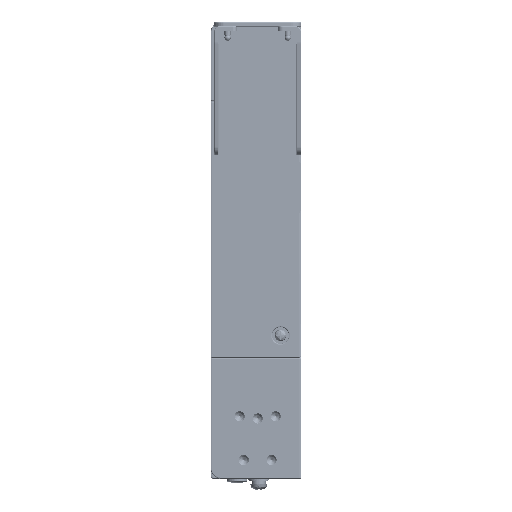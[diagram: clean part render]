
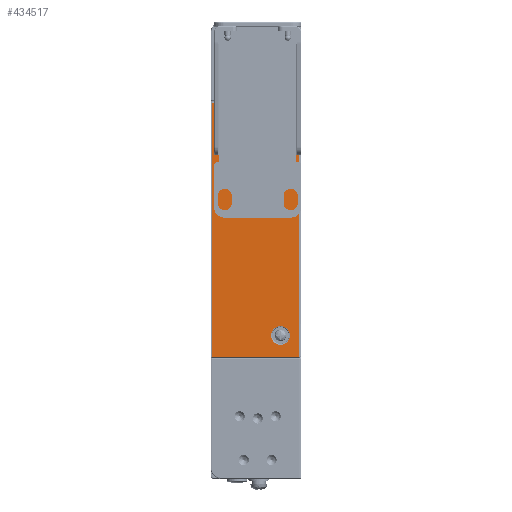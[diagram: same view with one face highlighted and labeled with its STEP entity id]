
A CAD part, left-side view. The second image highlights one B-rep face of the part: STEP entity #434517.
In plain terms, the highlighted planar face has unit normal (-1, 0, 0) as drawn and (0, 0, 1) by its records, which use the part's own axes.
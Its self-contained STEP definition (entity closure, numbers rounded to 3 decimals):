
#423816=DIRECTION('',(0.,-1.,0.));
#423817=VECTOR('',#423816,122.4);
#423818=CARTESIAN_POINT('',(-19.27,61.2,32.25));
#423819=LINE('',#423818,#423817);
#423820=CARTESIAN_POINT('',(13.83,51.,32.25));
#423821=DIRECTION('',(0.,0.,-1.));
#423822=DIRECTION('',(0.,1.,0.));
#423823=AXIS2_PLACEMENT_3D('',#423820,#423821,#423822);
#423825=CARTESIAN_POINT('',(13.83,51.,32.25));
#423826=DIRECTION('',(0.,0.,-1.));
#423827=DIRECTION('',(0.,-1.,0.));
#423828=AXIS2_PLACEMENT_3D('',#423825,#423826,#423827);
#423830=CARTESIAN_POINT('',(13.83,-51.,32.25));
#423831=DIRECTION('',(0.,0.,-1.));
#423832=DIRECTION('',(0.,1.,0.));
#423833=AXIS2_PLACEMENT_3D('',#423830,#423831,#423832);
#423835=CARTESIAN_POINT('',(13.83,-51.,32.25));
#423836=DIRECTION('',(0.,0.,-1.));
#423837=DIRECTION('',(0.,-1.,0.));
#423838=AXIS2_PLACEMENT_3D('',#423835,#423836,#423837);
#423840=DIRECTION('',(0.,-1.,0.));
#423841=VECTOR('',#423840,122.4);
#423842=CARTESIAN_POINT('',(22.83,61.2,
32.25));
#423843=LINE('',#423842,#423841);
#423844=DIRECTION('',(1.,0.,0.));
#423845=VECTOR('',#423844,42.1);
#423846=CARTESIAN_POINT('',(-19.27,-61.2,32.25));
#423847=LINE('',#423846,#423845);
#423848=DIRECTION('',(1.,0.,
0.));
#423849=VECTOR('',#423848,42.1);
#423850=CARTESIAN_POINT('',(-19.27,61.2,32.25));
#423851=LINE('',#423850,#423849);
#426617=CARTESIAN_POINT('',(13.83,55.5,32.25));
#426618=CARTESIAN_POINT('',(13.83,46.5,32.25));
#426619=VERTEX_POINT('',#426617);
#426620=VERTEX_POINT('',#426618);
#426625=CARTESIAN_POINT('',(13.83,-46.5,32.25));
#426626=CARTESIAN_POINT('',(13.83,-55.5,32.25));
#426627=VERTEX_POINT('',#426625);
#426628=VERTEX_POINT('',#426626);
#428065=CARTESIAN_POINT('',(-19.27,-61.2,32.25));
#428067=VERTEX_POINT('',#428065);
#428074=CARTESIAN_POINT('',(-19.27,61.2,32.25));
#428075=VERTEX_POINT('',#428074);
#428084=CARTESIAN_POINT('',(22.83,61.2,
32.25));
#428085=CARTESIAN_POINT('',(22.83,-61.2,
32.25));
#428086=VERTEX_POINT('',#428084);
#428087=VERTEX_POINT('',#428085);
#434492=CARTESIAN_POINT('',(0.,59.7,32.25));
#434493=DIRECTION('',(0.,0.,1.));
#434494=DIRECTION('',(0.,-1.,0.));
#434495=AXIS2_PLACEMENT_3D('',#434492,#434493,#434494);
#434496=PLANE('',#434495);
#434498=ORIENTED_EDGE('',*,*,#434497,.T.);
#434500=ORIENTED_EDGE('',*,*,#434499,.F.);
#434501=ORIENTED_EDGE('',*,*,#434487,.F.);
#434502=ORIENTED_EDGE('',*,*,#434114,.T.);
#434503=EDGE_LOOP('',(#434498,#434500,#434501,#434502));
#434504=FACE_OUTER_BOUND('',#434503,.F.);
#434506=ORIENTED_EDGE('',*,*,#434505,.F.);
#434508=ORIENTED_EDGE('',*,*,#434507,.F.);
#434509=EDGE_LOOP('',(#434506,#434508));
#434510=FACE_BOUND('',#434509,.F.);
#434512=ORIENTED_EDGE('',*,*,#434511,.F.);
#434514=ORIENTED_EDGE('',*,*,#434513,.F.);
#434515=EDGE_LOOP('',(#434512,#434514));
#434516=FACE_BOUND('',#434515,.F.);
#434517=ADVANCED_FACE('',(#434504,#434510,#434516),#434496,.T.);
#423824=CIRCLE('',#423823,4.5);
#423829=CIRCLE('',#423828,4.5);
#423834=CIRCLE('',#423833,4.5);
#423839=CIRCLE('',#423838,4.5);
#434114=EDGE_CURVE('',#428075,#428086,#423851,.T.);
#434487=EDGE_CURVE('',#428075,#428067,#423819,.T.);
#434497=EDGE_CURVE('',#428086,#428087,#423843,.T.);
#434499=EDGE_CURVE('',#428067,#428087,#423847,.T.);
#434505=EDGE_CURVE('',#426627,#426628,#423834,.T.);
#434507=EDGE_CURVE('',#426628,#426627,#423839,.T.);
#434511=EDGE_CURVE('',#426619,#426620,#423824,.T.);
#434513=EDGE_CURVE('',#426620,#426619,#423829,.T.);
